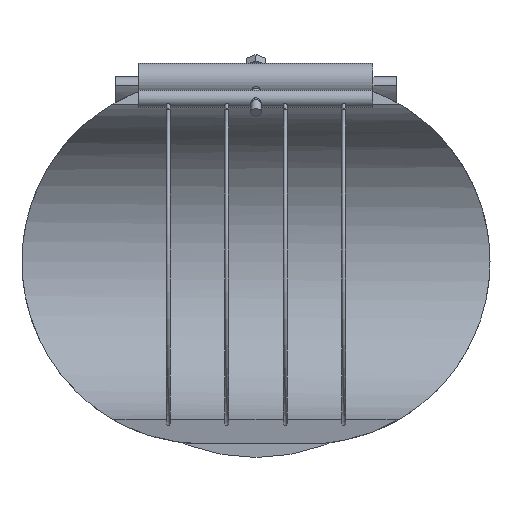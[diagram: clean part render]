
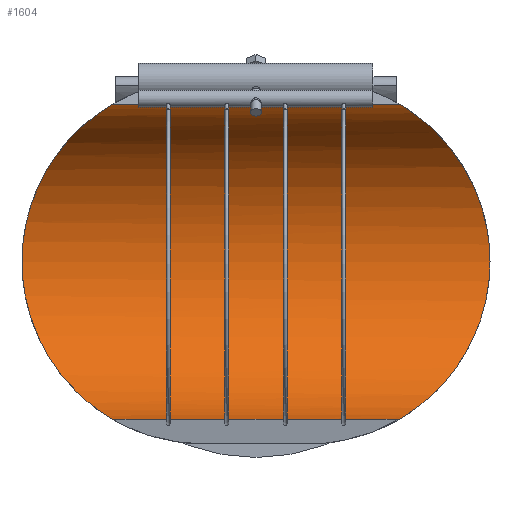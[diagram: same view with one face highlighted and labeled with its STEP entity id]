
A CAD part, front view. The second image highlights one B-rep face of the part: STEP entity #1604.
In plain terms, the highlighted cylindrical face has radius 90 mm (diameter 180 mm), a partial arc.
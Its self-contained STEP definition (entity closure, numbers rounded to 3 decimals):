
#151=FACE_OUTER_BOUND('',#245,.T.);
#245=EDGE_LOOP('',(#1347,#1348,#1349,#1350,#1351,#1352,#1353,#1354,#1355,
#1356));
#332=B_SPLINE_CURVE_WITH_KNOTS('',3,(#3347,#3348,#3349,#3350,#3351,#3352,
#3353,#3354,#3355,#3356,#3357,#3358,#3359,#3360,#3361,#3362,#3363,#3364),
 .UNSPECIFIED.,.F.,.F.,(4,2,2,2,2,2,2,2,4),(31.548,31.852,
33.78,35.708,37.636,39.448,41.261,
43.074,44.887),.UNSPECIFIED.);
#333=B_SPLINE_CURVE_WITH_KNOTS('',3,(#3365,#3366,#3367,#3368,#3369,#3370,
#3371,#3372,#3373,#3374,#3375,#3376,#3377,#3378,#3379,#3380,#3381,#3382),
 .UNSPECIFIED.,.F.,.F.,(4,2,2,2,2,2,2,2,4),(44.887,46.7,
48.513,50.326,52.139,54.067,55.994,
57.922,58.226),.UNSPECIFIED.);
#338=B_SPLINE_CURVE_WITH_KNOTS('',3,(#3494,#3495,#3496,#3497,#3498,#3499,
#3500,#3501,#3502,#3503,#3504,#3505,#3506,#3507,#3508,#3509,#3510,#3511),
 .UNSPECIFIED.,.F.,.F.,(4,2,2,2,2,2,2,2,4),(1.624,1.928,
3.855,5.783,7.711,9.524,11.337,
13.149,14.962),.UNSPECIFIED.);
#339=B_SPLINE_CURVE_WITH_KNOTS('',3,(#3513,#3514,#3515,#3516,#3517,#3518,
#3519,#3520,#3521,#3522,#3523,#3524,#3525,#3526,#3527,#3528,#3529,#3530),
 .UNSPECIFIED.,.F.,.F.,(4,2,2,2,2,2,2,2,4),(14.962,16.775,
18.588,20.401,22.214,24.142,26.069,
27.997,28.301),.UNSPECIFIED.);
#469=LINE('',#2636,#542);
#470=LINE('',#2639,#543);
#471=LINE('',#2642,#544);
#472=LINE('',#2644,#545);
#473=LINE('',#2645,#546);
#517=LINE('',#3572,#590);
#542=VECTOR('',#1901,10.);
#543=VECTOR('',#1904,10.);
#544=VECTOR('',#1907,10.);
#545=VECTOR('',#1910,10.);
#546=VECTOR('',#1911,10.);
#590=VECTOR('',#2163,10.);
#631=VERTEX_POINT('',#2624);
#633=VERTEX_POINT('',#2629);
#635=VERTEX_POINT('',#2633);
#636=VERTEX_POINT('',#2635);
#637=VERTEX_POINT('',#2638);
#638=VERTEX_POINT('',#2641);
#714=VERTEX_POINT('',#3344);
#715=VERTEX_POINT('',#3346);
#720=VERTEX_POINT('',#3493);
#721=VERTEX_POINT('',#3512);
#809=EDGE_CURVE('',#636,#635,#469,.T.);
#811=EDGE_CURVE('',#637,#636,#470,.T.);
#813=EDGE_CURVE('',#638,#637,#471,.T.);
#815=EDGE_CURVE('',#631,#638,#472,.T.);
#816=EDGE_CURVE('',#633,#631,#473,.T.);
#940=EDGE_CURVE('',#714,#715,#332,.T.);
#941=EDGE_CURVE('',#715,#635,#333,.T.);
#946=EDGE_CURVE('',#633,#720,#338,.T.);
#947=EDGE_CURVE('',#720,#721,#339,.T.);
#951=EDGE_CURVE('',#714,#721,#517,.T.);
#1347=ORIENTED_EDGE('',*,*,#946,.F.);
#1348=ORIENTED_EDGE('',*,*,#816,.T.);
#1349=ORIENTED_EDGE('',*,*,#815,.T.);
#1350=ORIENTED_EDGE('',*,*,#813,.T.);
#1351=ORIENTED_EDGE('',*,*,#811,.T.);
#1352=ORIENTED_EDGE('',*,*,#809,.T.);
#1353=ORIENTED_EDGE('',*,*,#941,.F.);
#1354=ORIENTED_EDGE('',*,*,#940,.F.);
#1355=ORIENTED_EDGE('',*,*,#951,.T.);
#1356=ORIENTED_EDGE('',*,*,#947,.F.);
#1533=CYLINDRICAL_SURFACE('',#1776,90.);
#1604=ADVANCED_FACE('',(#151),#1533,.F.);
#1776=AXIS2_PLACEMENT_3D('',#3571,#2161,#2162);
#1901=DIRECTION('',(1.,0.,0.));
#1904=DIRECTION('',(1.,0.,0.));
#1907=DIRECTION('',(1.,0.,0.));
#1910=DIRECTION('',(1.,0.,0.));
#1911=DIRECTION('',(1.,0.,0.));
#2161=DIRECTION('center_axis',(1.,0.,0.));
#2162=DIRECTION('ref_axis',(0.,1.,0.));
#2163=DIRECTION('',(-1.,0.,0.));
#2624=CARTESIAN_POINT('',(-49.313,15.628,-88.633));
#2629=CARTESIAN_POINT('',(-80.404,15.628,-88.633));
#2633=CARTESIAN_POINT('',(80.404,15.628,-88.633));
#2635=CARTESIAN_POINT('',(49.313,15.628,-88.633));
#2636=CARTESIAN_POINT('',(0.,15.628,-88.633));
#2638=CARTESIAN_POINT('',(16.438,15.628,-88.633));
#2639=CARTESIAN_POINT('',(0.,15.628,-88.633));
#2641=CARTESIAN_POINT('',(-16.438,15.628,-88.633));
#2642=CARTESIAN_POINT('',(0.,15.628,-88.633));
#2644=CARTESIAN_POINT('',(0.,15.628,-88.633));
#2645=CARTESIAN_POINT('',(0.,15.628,-88.633));
#3344=CARTESIAN_POINT('',(80.404,15.628,88.633));
#3346=CARTESIAN_POINT('',(131.5,90.,0.));
#3347=CARTESIAN_POINT('Ctrl Pts',(80.404,15.628,88.633));
#3348=CARTESIAN_POINT('Ctrl Pts',(80.689,16.567,88.467));
#3349=CARTESIAN_POINT('Ctrl Pts',(80.997,17.499,88.287));
#3350=CARTESIAN_POINT('Ctrl Pts',(83.393,24.294,86.866));
#3351=CARTESIAN_POINT('Ctrl Pts',(86.225,29.91,85.085));
#3352=CARTESIAN_POINT('Ctrl Pts',(92.502,40.637,80.515));
#3353=CARTESIAN_POINT('Ctrl Pts',(95.946,45.741,77.723));
#3354=CARTESIAN_POINT('Ctrl Pts',(102.788,55.262,71.268));
#3355=CARTESIAN_POINT('Ctrl Pts',(106.186,59.677,67.603));
#3356=CARTESIAN_POINT('Ctrl Pts',(112.284,67.367,59.913));
#3357=CARTESIAN_POINT('Ctrl Pts',(115.231,70.96,55.654));
#3358=CARTESIAN_POINT('Ctrl Pts',(120.642,77.44,46.215));
#3359=CARTESIAN_POINT('Ctrl Pts',(123.105,80.326,41.032));
#3360=CARTESIAN_POINT('Ctrl Pts',(127.18,85.059,30.014));
#3361=CARTESIAN_POINT('Ctrl Pts',(128.795,86.911,24.164));
#3362=CARTESIAN_POINT('Ctrl Pts',(130.955,89.382,12.179));
#3363=CARTESIAN_POINT('Ctrl Pts',(131.5,90.,6.043));
#3364=CARTESIAN_POINT('Ctrl Pts',(131.5,90.,0.));
#3365=CARTESIAN_POINT('Ctrl Pts',(131.5,90.,0.));
#3366=CARTESIAN_POINT('Ctrl Pts',(131.5,90.,-6.043));
#3367=CARTESIAN_POINT('Ctrl Pts',(130.955,89.382,-12.179));
#3368=CARTESIAN_POINT('Ctrl Pts',(128.795,86.911,-24.164));
#3369=CARTESIAN_POINT('Ctrl Pts',(127.18,85.059,-30.014));
#3370=CARTESIAN_POINT('Ctrl Pts',(123.105,80.326,-41.032));
#3371=CARTESIAN_POINT('Ctrl Pts',(120.642,77.44,-46.215));
#3372=CARTESIAN_POINT('Ctrl Pts',(115.231,70.96,-55.654));
#3373=CARTESIAN_POINT('Ctrl Pts',(112.284,67.367,-59.913));
#3374=CARTESIAN_POINT('Ctrl Pts',(106.186,59.677,-67.603));
#3375=CARTESIAN_POINT('Ctrl Pts',(102.788,55.262,-71.268));
#3376=CARTESIAN_POINT('Ctrl Pts',(95.946,45.741,-77.723));
#3377=CARTESIAN_POINT('Ctrl Pts',(92.502,40.637,-80.515));
#3378=CARTESIAN_POINT('Ctrl Pts',(86.225,29.91,-85.085));
#3379=CARTESIAN_POINT('Ctrl Pts',(83.393,24.294,-86.866));
#3380=CARTESIAN_POINT('Ctrl Pts',(80.997,17.499,-88.287));
#3381=CARTESIAN_POINT('Ctrl Pts',(80.689,16.567,-88.467));
#3382=CARTESIAN_POINT('Ctrl Pts',(80.404,15.628,-88.633));
#3493=CARTESIAN_POINT('',(-131.5,90.,0.));
#3494=CARTESIAN_POINT('Ctrl Pts',(-80.404,15.628,-88.633));
#3495=CARTESIAN_POINT('Ctrl Pts',(-80.689,16.567,-88.467));
#3496=CARTESIAN_POINT('Ctrl Pts',(-80.997,17.499,-88.287));
#3497=CARTESIAN_POINT('Ctrl Pts',(-83.393,24.294,-86.866));
#3498=CARTESIAN_POINT('Ctrl Pts',(-86.225,29.91,-85.085));
#3499=CARTESIAN_POINT('Ctrl Pts',(-92.502,40.637,-80.515));
#3500=CARTESIAN_POINT('Ctrl Pts',(-95.946,45.741,-77.723));
#3501=CARTESIAN_POINT('Ctrl Pts',(-102.788,55.262,-71.268));
#3502=CARTESIAN_POINT('Ctrl Pts',(-106.186,59.677,-67.603));
#3503=CARTESIAN_POINT('Ctrl Pts',(-112.284,67.367,-59.913));
#3504=CARTESIAN_POINT('Ctrl Pts',(-115.231,70.96,-55.654));
#3505=CARTESIAN_POINT('Ctrl Pts',(-120.642,77.44,-46.215));
#3506=CARTESIAN_POINT('Ctrl Pts',(-123.105,80.326,-41.032));
#3507=CARTESIAN_POINT('Ctrl Pts',(-127.18,85.059,-30.014));
#3508=CARTESIAN_POINT('Ctrl Pts',(-128.795,86.911,-24.164));
#3509=CARTESIAN_POINT('Ctrl Pts',(-130.955,89.382,-12.179));
#3510=CARTESIAN_POINT('Ctrl Pts',(-131.5,90.,-6.043));
#3511=CARTESIAN_POINT('Ctrl Pts',(-131.5,90.,0.));
#3512=CARTESIAN_POINT('',(-80.404,15.628,88.633));
#3513=CARTESIAN_POINT('Ctrl Pts',(-131.5,90.,0.));
#3514=CARTESIAN_POINT('Ctrl Pts',(-131.5,90.,6.043));
#3515=CARTESIAN_POINT('Ctrl Pts',(-130.955,89.382,12.179));
#3516=CARTESIAN_POINT('Ctrl Pts',(-128.795,86.911,24.164));
#3517=CARTESIAN_POINT('Ctrl Pts',(-127.18,85.059,30.014));
#3518=CARTESIAN_POINT('Ctrl Pts',(-123.105,80.326,41.032));
#3519=CARTESIAN_POINT('Ctrl Pts',(-120.642,77.44,46.215));
#3520=CARTESIAN_POINT('Ctrl Pts',(-115.231,70.96,55.654));
#3521=CARTESIAN_POINT('Ctrl Pts',(-112.284,67.367,59.913));
#3522=CARTESIAN_POINT('Ctrl Pts',(-106.186,59.677,67.603));
#3523=CARTESIAN_POINT('Ctrl Pts',(-102.788,55.262,71.268));
#3524=CARTESIAN_POINT('Ctrl Pts',(-95.946,45.741,77.723));
#3525=CARTESIAN_POINT('Ctrl Pts',(-92.502,40.637,80.515));
#3526=CARTESIAN_POINT('Ctrl Pts',(-86.225,29.91,85.085));
#3527=CARTESIAN_POINT('Ctrl Pts',(-83.393,24.294,86.866));
#3528=CARTESIAN_POINT('Ctrl Pts',(-80.997,17.499,88.287));
#3529=CARTESIAN_POINT('Ctrl Pts',(-80.689,16.567,88.467));
#3530=CARTESIAN_POINT('Ctrl Pts',(-80.404,15.628,88.633));
#3571=CARTESIAN_POINT('Origin',(0.,0.,0.));
#3572=CARTESIAN_POINT('',(0.,15.628,88.633));
